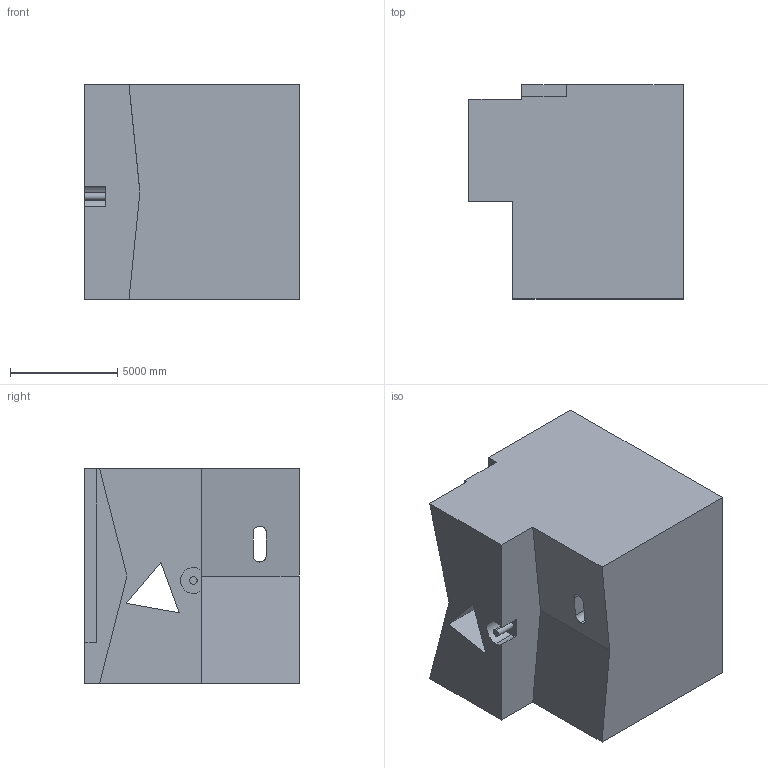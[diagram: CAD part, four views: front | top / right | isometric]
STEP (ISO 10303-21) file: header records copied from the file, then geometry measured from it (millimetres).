
FILE_DESCRIPTION (( 'STEP AP203' ), '1' );
FILE_NAME ('156.STEP', '2022-09-06T13:26:55', ( 'user' ), ( '' ), 'SwSTEP 2.0', 'SolidWorks 2021', '' );
FILE_SCHEMA (( 'CONFIG_CONTROL_DESIGN' ));
Length unit declared in the file: centimetre
Products named in the file (1): 156
Bounding box: 10000 x 10000 x 10000 mm (x, y, z)
Volume: 817011396673.6 mm3; surface area: 680503363.4 mm2
Topology: 1 solids, 1 shells, 30 faces, 81 edges, 54 vertices
Faces by surface type: plane 22, cylinder 8
Entity records: 1023 total; most frequent: CARTESIAN_POINT 175, ORIENTED_EDGE 162, DIRECTION 153, EDGE_CURVE 81, VECTOR 65, LINE 65, VERTEX_POINT 54, AXIS2_PLACEMENT_3D 44
